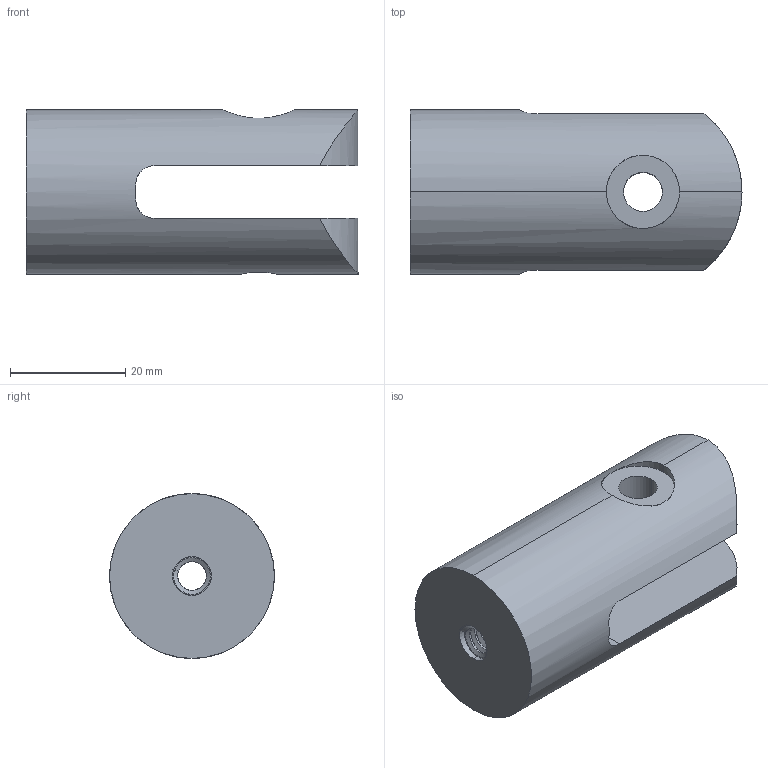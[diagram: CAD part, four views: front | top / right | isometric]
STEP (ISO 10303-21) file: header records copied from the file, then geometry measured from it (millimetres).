
FILE_DESCRIPTION (( 'STEP AP214' ), '1' );
FILE_NAME ('DRP-002-0523-00.STEP', '2013-12-20T16:55:53', ( 'ydmin' ), ( 'Microsoft' ), 'SwSTEP 2.0', 'SolidWorks 2013', '' );
FILE_SCHEMA (( 'AUTOMOTIVE_DESIGN' ));
Length unit declared in the file: inch
Products named in the file (1): DRP-002-0523-00
Bounding box: 57.57 x 28.57 x 28.57 mm (x, y, z)
Volume: 25283 mm3; surface area: 8461.5 mm2
Topology: 2 solids, 2 shells, 33 faces, 88 edges, 57 vertices
Faces by surface type: cylinder 17, plane 8, bspline 8
Entity records: 3311 total; most frequent: CARTESIAN_POINT 2067, ORIENTED_EDGE 176, DIRECTION 135, EDGE_CURVE 88, VERTEX_POINT 57, AXIS2_PLACEMENT_3D 47, VECTOR 41, LINE 41
